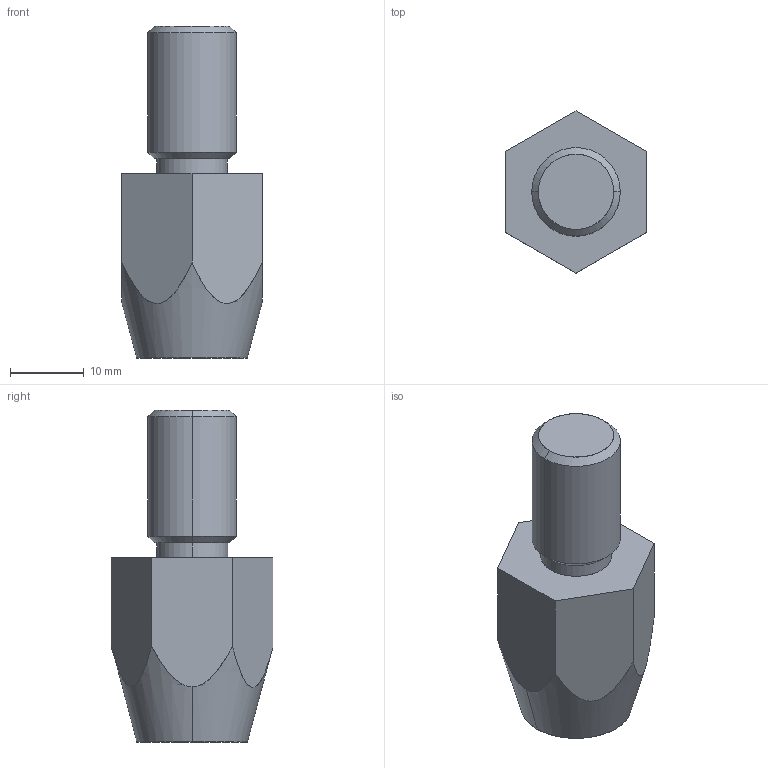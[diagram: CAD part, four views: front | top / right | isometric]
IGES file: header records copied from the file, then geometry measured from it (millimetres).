
Start section: SolidWorks IGES FILE using analytic representation for surfaces
Global section: file name: C:\WIX2\Positioning\3600\3600W121.igs; native system: SolidWorks 2003 by SolidWorks Corporation; preprocessor: Version 5.3; author: Joan; date: 030722.164504; units: millimetre
Bounding box: 19 x 21.94 x 45 mm (x, y, z)
Surface area: 2823.3 mm2 (no closed solid volume)
Topology: 0 solids, 0 shells, 20 faces, 330 edges, 330 vertices
Faces by surface type: revolution 10, bspline 10
